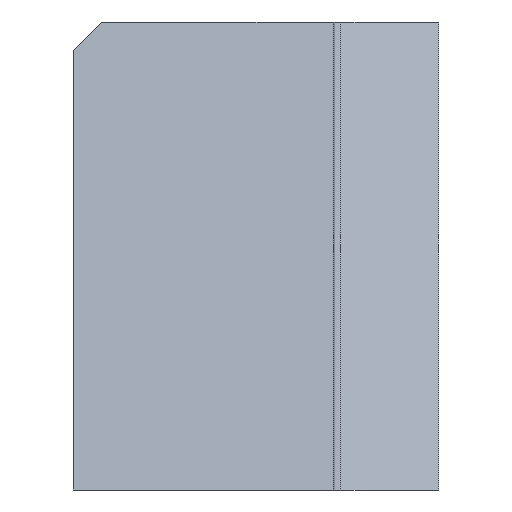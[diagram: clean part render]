
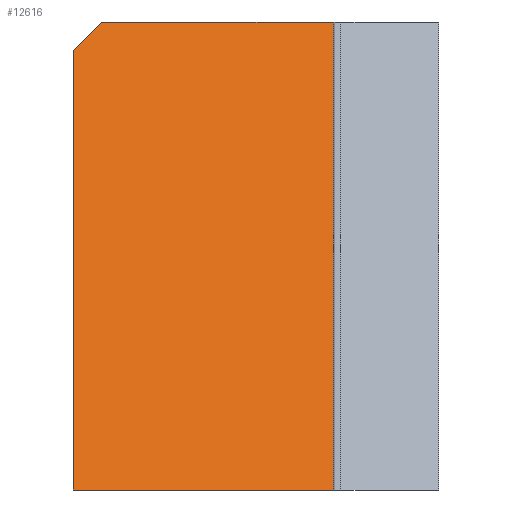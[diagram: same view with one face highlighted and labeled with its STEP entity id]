
A CAD part, left-side view. The second image highlights one B-rep face of the part: STEP entity #12616.
In plain terms, the highlighted planar face has unit normal (-0.943, 0, 0.334).
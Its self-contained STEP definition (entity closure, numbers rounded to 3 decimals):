
#1599=ORIENTED_EDGE('',*,*,#5401,.F.);
#1600=ORIENTED_EDGE('',*,*,#5402,.T.);
#1601=ORIENTED_EDGE('',*,*,#4544,.F.);
#1602=ORIENTED_EDGE('',*,*,#5403,.F.);
#1603=ORIENTED_EDGE('',*,*,#5038,.F.);
#4544=EDGE_CURVE('',#6445,#6446,#7692,.T.);
#5038=EDGE_CURVE('',#6938,#6940,#8029,.T.);
#5401=EDGE_CURVE('',#7302,#6938,#8272,.T.);
#5402=EDGE_CURVE('',#7302,#6446,#8273,.T.);
#5403=EDGE_CURVE('',#6940,#6445,#8274,.T.);
#6445=VERTEX_POINT('',#17340);
#6446=VERTEX_POINT('',#17341);
#6938=VERTEX_POINT('',#19343);
#6940=VERTEX_POINT('',#19346);
#7302=VERTEX_POINT('',#20072);
#7692=LINE('',#17339,#9191);
#8029=LINE('',#19345,#9528);
#8272=LINE('',#20071,#9771);
#8273=LINE('',#20073,#9772);
#8274=LINE('',#20074,#9773);
#9191=VECTOR('',#14038,1000.);
#9528=VECTOR('',#14381,1000.);
#9771=VECTOR('',#14866,1000.);
#9772=VECTOR('',#14867,1000.);
#9773=VECTOR('',#14868,1000.);
#10641=EDGE_LOOP('',(#1599,#1600,#1601,#1602,#1603));
#11402=FACE_BOUND('',#10641,.T.);
#12122=PLANE('',#13446);
#12616=ADVANCED_FACE('',(#11402),#12122,.T.);
#13446=AXIS2_PLACEMENT_3D('',#20070,#14864,#14865);
#14038=DIRECTION('',(0.,1.,0.));
#14381=DIRECTION('',(0.,-1.,0.));
#14864=DIRECTION('',(-0.942,0.,0.334));
#14865=DIRECTION('',(0.,1.,0.));
#14866=DIRECTION('',(0.243,-0.686,0.686));
#14867=DIRECTION('',(-0.334,0.,-0.942));
#14868=DIRECTION('',(-0.334,0.,-0.942));
#17339=CARTESIAN_POINT('',(-17.734,-27.75,-50.));
#17340=CARTESIAN_POINT('',(-17.734,-27.75,-50.));
#17341=CARTESIAN_POINT('',(-17.734,0.,-50.));
#19343=CARTESIAN_POINT('',(0.,-3.,0.));
#19345=CARTESIAN_POINT('',(0.,0.,0.));
#19346=CARTESIAN_POINT('',(0.,-27.75,0.));
#20070=CARTESIAN_POINT('',(0.,-27.75,0.));
#20071=CARTESIAN_POINT('',(1.938,-8.463,5.463));
#20072=CARTESIAN_POINT('',(-1.064,0.,-3.));
#20073=CARTESIAN_POINT('',(0.,0.,0.));
#20074=CARTESIAN_POINT('',(0.,-27.75,0.));
